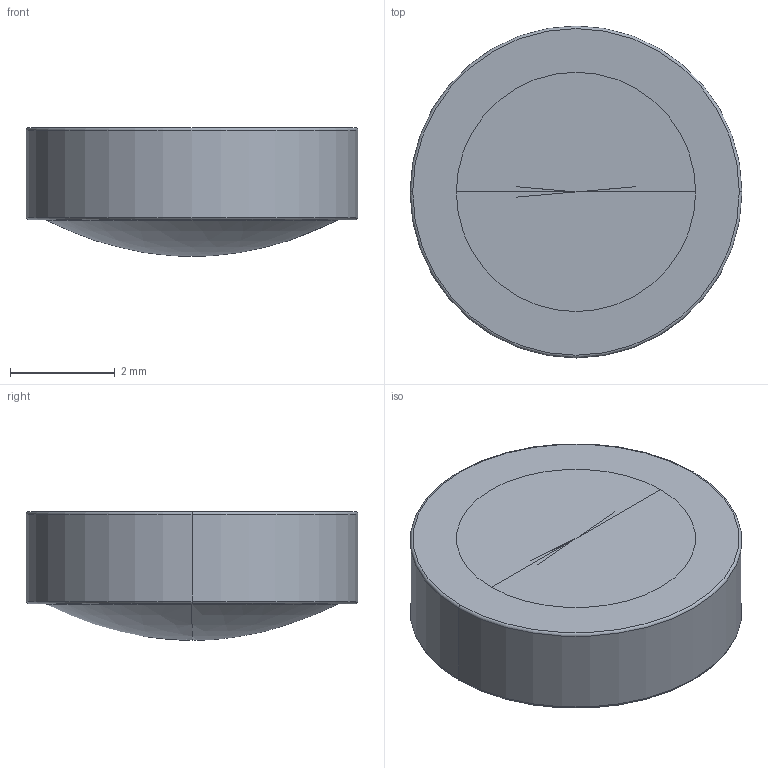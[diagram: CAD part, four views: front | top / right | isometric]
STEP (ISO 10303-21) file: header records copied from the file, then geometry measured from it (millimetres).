
FILE_DESCRIPTION((''),'2;1');
FILE_NAME('354306','2025-07-30T22:36:36',('admin'),('LIGHTPATH'),'CREO PARAMETRIC BY PTC INC, 2024063','CREO PARAMETRIC BY PTC INC, 2024063','');
FILE_SCHEMA(('CONFIG_CONTROL_DESIGN'));
Length unit declared in the file: millimetre
Products named in the file (1): 354306
Bounding box: 6.33 x 6.33 x 2.46 mm (x, y, z)
Volume: 64 mm3; surface area: 98.6 mm2
Topology: 1 solids, 1 shells, 14 faces, 30 edges, 16 vertices
Faces by surface type: torus 6, revolution 4, plane 2, cylinder 2
Entity records: 669 total; most frequent: CARTESIAN_POINT 333, DIRECTION 68, ORIENTED_EDGE 52, AXIS2_PLACEMENT_3D 30, EDGE_CURVE 26, CIRCLE 20, VERTEX_POINT 16, EDGE_LOOP 16
